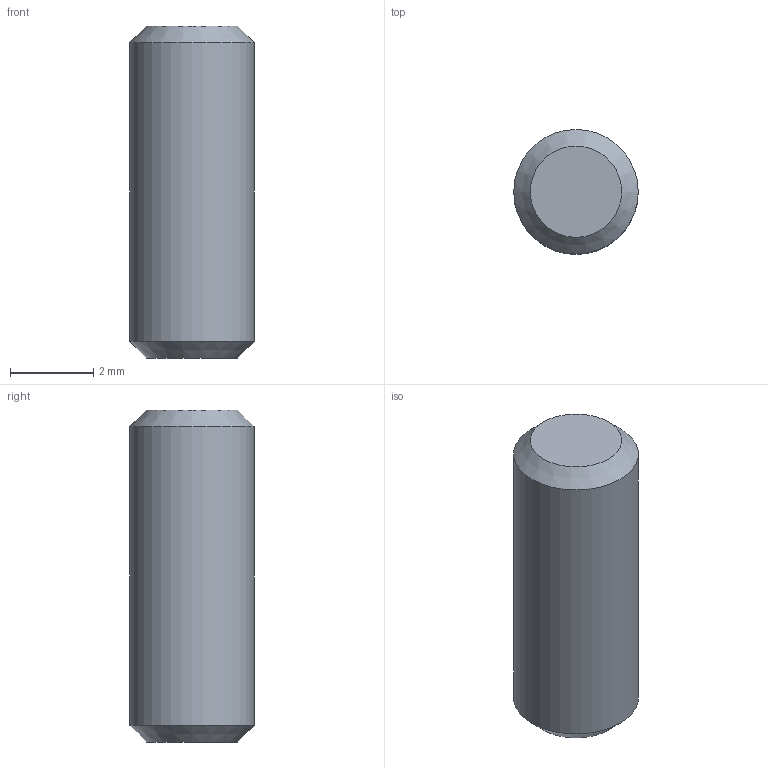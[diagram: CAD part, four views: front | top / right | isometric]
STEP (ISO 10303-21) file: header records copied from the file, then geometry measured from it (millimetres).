
FILE_DESCRIPTION(('FreeCAD Model'),'2;1');
FILE_NAME('Open CASCADE Shape Model','2026-11-21T15:21:18',('Author'),( ''),'Open CASCADE STEP processor 7.8','FreeCAD','Unknown');
FILE_SCHEMA(('AUTOMOTIVE_DESIGN { 1 0 10303 214 1 1 1 1 }'));
Length unit declared in the file: millimetre
Products named in the file (1): MockupAlignmentPin0
Bounding box: 3 x 3 x 8 mm (x, y, z)
Volume: 55.2 mm3; surface area: 84.7 mm2
Topology: 1 solids, 1 shells, 5 faces, 7 edges, 4 vertices
Faces by surface type: plane 2, cone 2, cylinder 1
Full cylindrical faces by diameter (mm): 3 x1
Entity records: 131 total; most frequent: DIRECTION 23, CARTESIAN_POINT 17, ORIENTED_EDGE 14, AXIS2_PLACEMENT_3D 10, EDGE_CURVE 7, ADVANCED_FACE 5, FACE_BOUND 5, EDGE_LOOP 5
